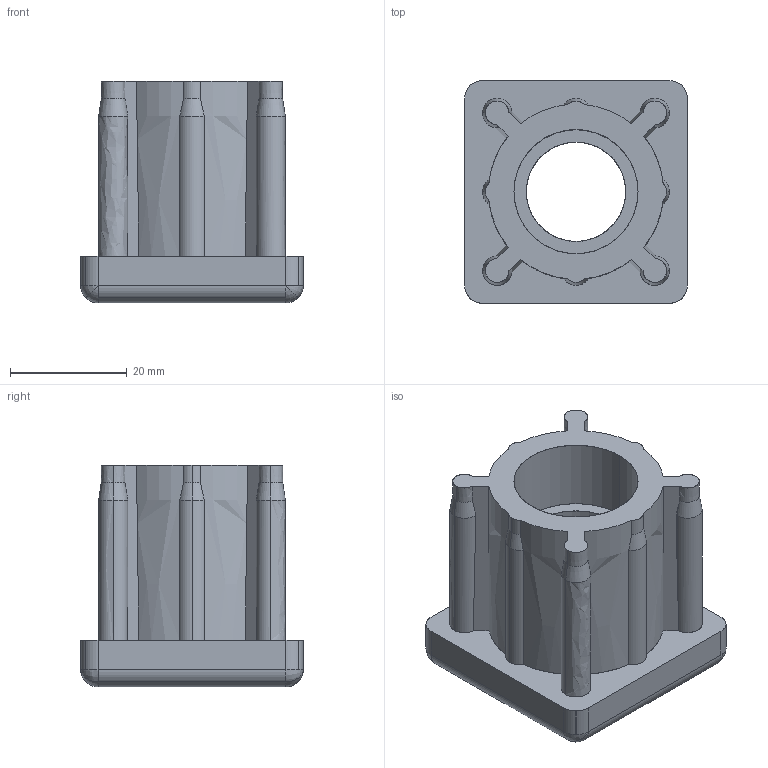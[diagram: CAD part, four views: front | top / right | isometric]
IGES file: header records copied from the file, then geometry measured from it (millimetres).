
Start section: SolidWorks IGES file using analytic representation for surfaces
Global section: file name: Y:\Tecnodin, S.L\Planos Clientes - Documentos\General\PLANOS CLIENTES\3D\-REVISAR-\CONTERAS TECOM\42006835220.IGS; native system: SolidWorks 2018; preprocessor: SolidWorks 2018; author: GerPro; date: 200226.120415; units: millimetre
Bounding box: 38.1 x 38.1 x 38 mm (x, y, z)
Surface area: 13167.3 mm2 (no closed solid volume)
Topology: 0 solids, 0 shells, 130 faces, 1301 edges, 1296 vertices
Faces by surface type: revolution 104, bspline 26
